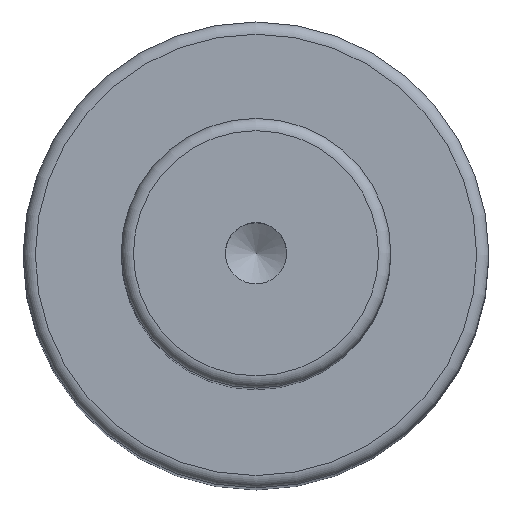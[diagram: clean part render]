
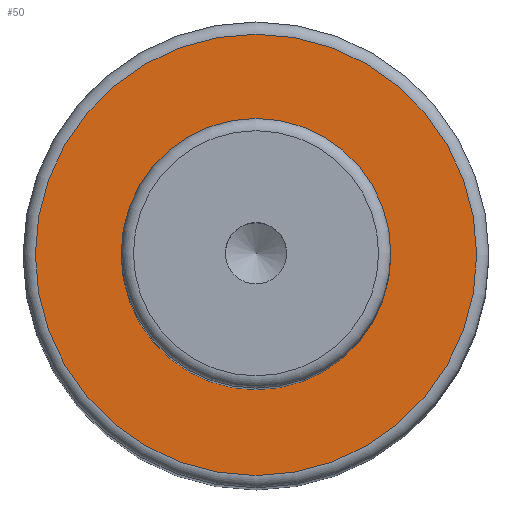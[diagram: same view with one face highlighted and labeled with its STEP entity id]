
A CAD part, top view. The second image highlights one B-rep face of the part: STEP entity #50.
In plain terms, the highlighted planar face has unit normal (0, 0, 1).
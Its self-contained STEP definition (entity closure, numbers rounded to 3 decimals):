
#40=PLANE('',#179);
#50=ADVANCED_FACE('',(#72,#73),#40,.F.);
#72=FACE_BOUND('',#96,.T.);
#73=FACE_BOUND('',#97,.T.);
#96=EDGE_LOOP('',(#118));
#97=EDGE_LOOP('',(#119));
#118=ORIENTED_EDGE('',*,*,#149,.F.);
#119=ORIENTED_EDGE('',*,*,#148,.T.);
#135=VERTEX_POINT('',#256);
#136=VERTEX_POINT('',#259);
#148=EDGE_CURVE('',#135,#135,#159,.T.);
#149=EDGE_CURVE('',#136,#136,#160,.T.);
#159=CIRCLE('',#176,11.);
#160=CIRCLE('',#178,18.);
#176=AXIS2_PLACEMENT_3D('',#255,#213,#214);
#178=AXIS2_PLACEMENT_3D('',#258,#217,#218);
#179=AXIS2_PLACEMENT_3D('',#260,#219,#220);
#213=DIRECTION('',(0.,0.,-1.));
#214=DIRECTION('',(-1.,0.,0.));
#217=DIRECTION('',(0.,0.,-1.));
#218=DIRECTION('',(-1.,0.,0.));
#219=DIRECTION('',(0.,0.,-1.));
#220=DIRECTION('',(-1.,0.,0.));
#255=CARTESIAN_POINT('',(0.,0.,104.));
#256=CARTESIAN_POINT('',(-11.,0.,104.));
#258=CARTESIAN_POINT('',(0.,0.,104.));
#259=CARTESIAN_POINT('',(-18.,0.,104.));
#260=CARTESIAN_POINT('',(11.,0.,104.));
